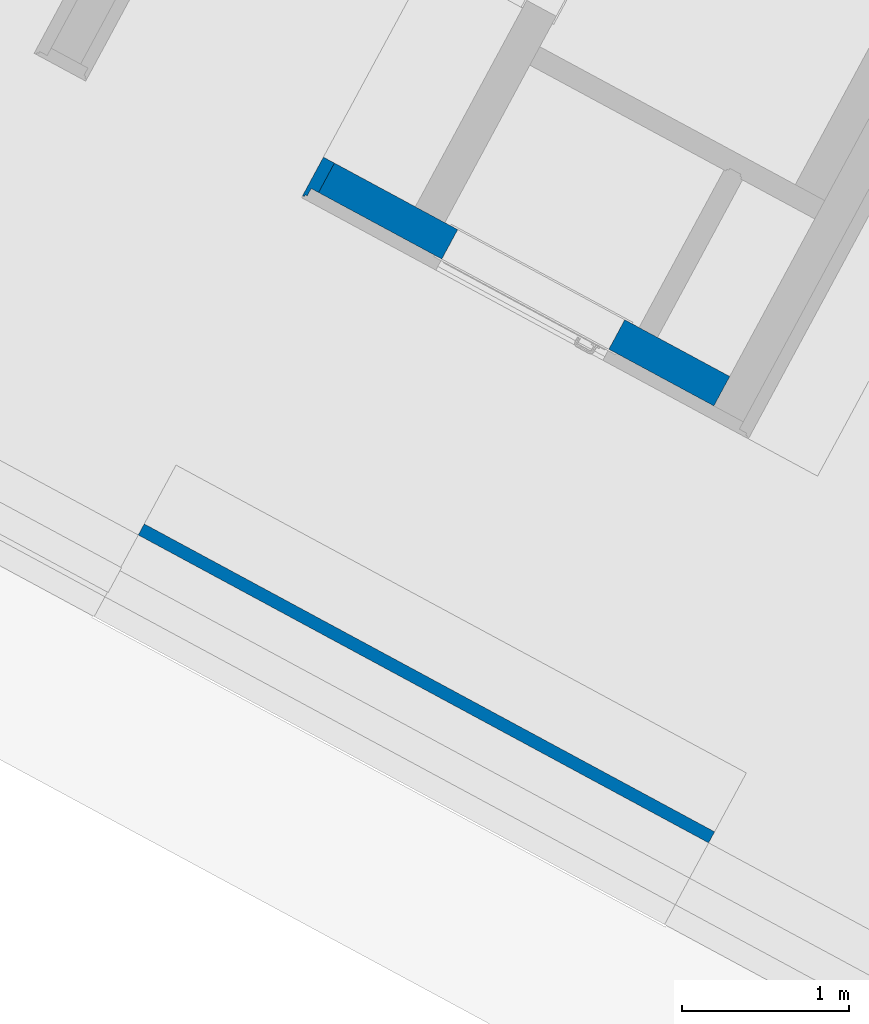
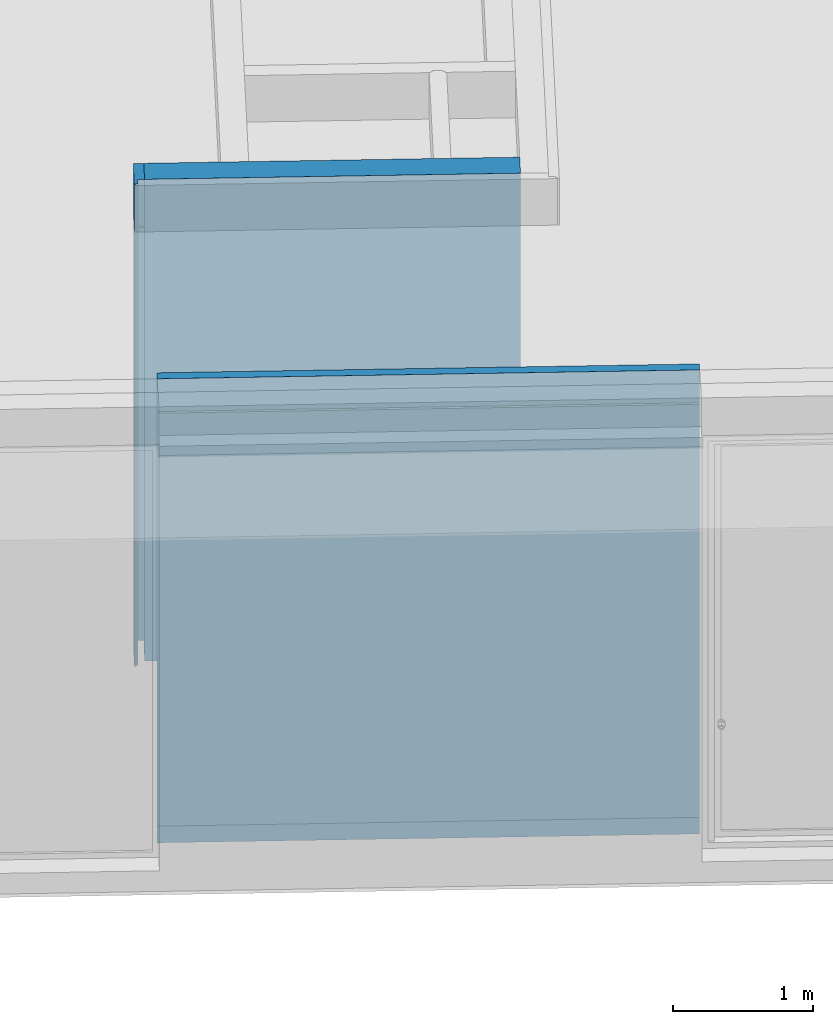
# One storey, part 4 of 52: 3 walls, 1 opening.
"""IFC2X3 building model written with IfcOpenShell, lengths in metres."""

from ifc_helpers import new_model, entity, si_unit, converted_unit, derived_unit, money_unit, direction, frame, origin_with_axes, origin_2d_with_axis, place, context, subcontext, project, spatial, rectangle, extrude, faceted_brep, material, material_list, type_object, element, save


model = new_model("IFC2X3")

# Units and contexts
model_context = context("Model", 3, precision=1e-05, world=origin_with_axes(), true_north=direction((0.0, 1.0)))
body_context = subcontext(model_context, "Body", "Model", "MODEL_VIEW")
ifc_project = project(units=[si_unit("LENGTHUNIT", "METRE"), si_unit("AREAUNIT", "SQUARE_METRE"), si_unit("VOLUMEUNIT", "CUBIC_METRE"), converted_unit("PLANEANGLEUNIT", "DEGREE", entity("IfcPlaneAngleMeasure", 0.0174532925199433), si_unit("PLANEANGLEUNIT", "RADIAN"), dimensions=[0, 0, 0, 0, 0, 0, 0]), money_unit("EUR"), converted_unit("TIMEUNIT", "Year", entity("IfcTimeMeasure", 31556926.0), si_unit("TIMEUNIT", "SECOND"), dimensions=[0, 0, 1, 0, 0, 0, 0]), si_unit("MASSUNIT", "GRAM", prefix="KILO"), si_unit("THERMODYNAMICTEMPERATUREUNIT", "DEGREE_CELSIUS"), si_unit("LUMINOUSINTENSITYUNIT", "LUMEN"), si_unit("ENERGYUNIT", "JOULE", prefix="MEGA"), derived_unit("THERMALCONDUCTANCEUNIT", [(si_unit("POWERUNIT", "WATT"), 1), (si_unit("LENGTHUNIT", "METRE"), -1), (si_unit("THERMODYNAMICTEMPERATUREUNIT", "KELVIN"), -1)]), derived_unit("SPECIFICHEATCAPACITYUNIT", [(si_unit("ENERGYUNIT", "JOULE"), 1), (si_unit("MASSUNIT", "GRAM", prefix="KILO"), -1), (si_unit("THERMODYNAMICTEMPERATUREUNIT", "KELVIN"), -1)]), derived_unit("MASSDENSITYUNIT", [(si_unit("MASSUNIT", "GRAM", prefix="KILO"), 1), (si_unit("VOLUMEUNIT", "CUBIC_METRE"), -1)])], contexts=[model_context])

# Site, building, storey
site_placement = place(None, frame((-3.949935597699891, 1.740105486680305, 0.0), z_axis=(0.0, 0.0, 1.0), x_axis=(0.8799804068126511, -0.475009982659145, 0.0)))
site = spatial("IfcSite", under=ifc_project, at=site_placement, Name="Gelände", CompositionType="ELEMENT")
building_placement = place(site_placement, origin_with_axes())
building = spatial("IfcBuilding", under=site, at=building_placement, Name="Gebäude", CompositionType="ELEMENT")
storey_placement = place(building_placement, origin_with_axes())
storey = spatial("IfcBuildingStorey", under=building, at=storey_placement, Name="Erdgeschoss", CompositionType="ELEMENT", Elevation=0.0)

# Walls
ifc_material_1 = material(Name="_SIWH - Installationswand, raumhoch")
ifc_material_2 = material(Name="_SIWH - Gipskarton")
ifc_material_list_1 = material_list([ifc_material_1, ifc_material_2, ifc_material_2])
wall_type_1 = type_object("IfcWallType", Name="_SIWH - WI | Vorsatz-GK 2-lagig | 7,5cm  75", PredefinedType="NOTDEFINED")
wall_1_placement = place(storey_placement, frame((15.16082818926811, 2.978482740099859, -0.1800000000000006), z_axis=(0.0, 0.0, 1.0), x_axis=(0.0, -1.0, 0.0)))
element("IfcWall", 1, at=wall_1_placement, inside=storey, type_object=wall_type_1, material=ifc_material_list_1, Name="L-Wand009", context=body_context, shape_type="Brep", body=[
    faceted_brep([(0.0, 0.02500000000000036, 3.780000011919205), (0.0, 0.07500000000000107, 3.780000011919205), (0.0, 0.07499999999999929, 0.1800000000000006), (0.0, 0.02500000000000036, 0.1800000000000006), (0.1999999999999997, 0.07500000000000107, 3.780000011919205), (0.1999999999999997, 0.02500000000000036, 3.780000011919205), (0.1999999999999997, 0.07499999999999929, 0.1800000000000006), (0.1999999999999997, 0.02500000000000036, 0.1800000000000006)], [[[0, 1, 2, 3]], [[4, 1, 0, 5]], [[1, 4, 6, 2]], [[3, 2, 6, 7]], [[5, 0, 3, 7]], [[4, 5, 7, 6]]]),
    faceted_brep([(0.1999999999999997, 0.07500000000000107, 3.795000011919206), (0.0, 0.07500000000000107, 3.795000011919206), (0.0, 0.07500000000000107, 4.200000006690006), (0.1999999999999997, 0.07500000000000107, 4.200000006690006), (0.0, 0.02500000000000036, 3.795000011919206), (0.1999999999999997, 0.02500000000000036, 3.795000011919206), (0.0, 0.02500000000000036, 4.200000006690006), (0.1999999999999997, 0.02500000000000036, 4.200000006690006)], [[[0, 1, 2, 3]], [[4, 1, 0, 5]], [[1, 4, 6, 2]], [[7, 3, 2, 6]], [[5, 0, 3, 7]], [[4, 5, 7, 6]]]),
    faceted_brep([(0.2499999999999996, 0.01249999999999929, 0.0), (0.0, 0.01249999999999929, 0.0), (0.0, 0.02500000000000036, 0.0), (0.2499999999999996, 0.02500000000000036, 0.0), (0.2499999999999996, 0.01250000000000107, 4.200000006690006), (0.0, 0.01250000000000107, 4.200000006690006), (0.0, 0.02500000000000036, 4.200000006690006), (0.2499999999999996, 0.02500000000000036, 4.200000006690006)], [[[0, 1, 2, 3]], [[4, 5, 1, 0]], [[2, 1, 5, 6]], [[3, 2, 6, 7]], [[3, 7, 4, 0]], [[7, 6, 5, 4]]]),
    faceted_brep([(0.2624999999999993, 0.0, 0.0), (0.0, 0.0, 0.0), (0.0, 0.01249999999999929, 0.0), (0.2624999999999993, 0.01249999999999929, 0.0), (0.2624999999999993, 0.0, 4.200000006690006), (0.0, 0.0, 4.200000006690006), (0.0, 0.01250000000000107, 4.200000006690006), (0.2624999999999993, 0.01250000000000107, 4.200000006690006)], [[[0, 1, 2, 3]], [[4, 5, 1, 0]], [[2, 1, 5, 6]], [[3, 2, 6, 7]], [[3, 7, 4, 0]], [[7, 6, 5, 4]]]),
])
ifc_material_list_2 = material_list([ifc_material_2, ifc_material_2, ifc_material_1])
wall_2_placement = place(storey_placement, frame((15.25998888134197, 0.4649900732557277, -0.1799999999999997), z_axis=(0.0, 0.0, 1.0), x_axis=(0.9999999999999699, -2.452875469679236e-07, 0.0)))
element("IfcWall", 2, at=wall_2_placement, inside=storey, type_object=wall_type_1, material=ifc_material_list_2, Name="L-Wand014", context=body_context, shape_type="Brep", body=[
    faceted_brep([(3.874872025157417, 0.0625000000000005, 4.080000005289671), (3.874872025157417, 0.07500000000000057, 4.080000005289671), (0.0, 0.07500000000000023, 4.080000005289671), (0.0, 0.06250000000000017, 4.080000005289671), (3.874872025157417, 0.06250000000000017, 0.0), (3.874872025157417, 0.07500000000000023, 0.0), (0.0, 0.07500000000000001, 0.0), (0.0, 0.06249999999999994, 0.0)], [[[0, 1, 2, 3]], [[0, 4, 5, 1]], [[1, 5, 6, 2]], [[3, 2, 6, 7]], [[4, 0, 3, 7]], [[5, 4, 7, 6]]]),
    faceted_brep([(3.874872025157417, 0.05000000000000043, 4.080000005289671), (3.874872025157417, 0.0625000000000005, 4.080000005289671), (0.0, 0.06250000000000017, 4.080000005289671), (0.0, 0.0500000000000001, 4.080000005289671), (3.874872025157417, 0.0500000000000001, 0.0), (3.874872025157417, 0.06250000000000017, 0.0), (0.0, 0.06249999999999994, 0.0), (0.0, 0.04999999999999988, 0.0)], [[[0, 1, 2, 3]], [[0, 4, 5, 1]], [[1, 5, 6, 2]], [[3, 2, 6, 7]], [[4, 0, 3, 7]], [[5, 4, 7, 6]]]),
    faceted_brep([(0.0, 0.04999999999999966, 3.780000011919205), (3.874872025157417, 0.05000000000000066, 3.780000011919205), (3.874872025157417, 0.05000000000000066, 0.1799999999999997), (0.0, 0.04999999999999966, 0.1799999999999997), (3.874872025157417, 0.0, 3.780000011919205), (0.0, 0.0, 3.780000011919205), (3.874872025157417, 0.0, 0.1799999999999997), (0.0, 0.0, 0.1799999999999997)], [[[0, 1, 2, 3]], [[4, 1, 0, 5]], [[1, 4, 6, 2]], [[3, 2, 6, 7]], [[5, 0, 3, 7]], [[4, 5, 7, 6]]]),
    faceted_brep([(3.874872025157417, 0.0, 3.795000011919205), (3.874872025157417, 0.05000000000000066, 3.795000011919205), (3.874872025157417, 0.05000000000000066, 4.080000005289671), (3.874872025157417, 0.0, 4.080000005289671), (0.0, 0.04999999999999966, 3.795000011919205), (0.0, 0.0, 3.795000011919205), (0.0, 0.04999999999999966, 4.080000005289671), (0.0, 0.0, 4.080000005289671)], [[[0, 1, 2, 3]], [[4, 1, 0, 5]], [[1, 4, 6, 2]], [[7, 3, 2, 6]], [[5, 0, 3, 7]], [[4, 5, 7, 6]]]),
])

# Wall, opening
ifc_material_3 = material(Name="_SIWH - Beton, Stahlbeton")
wall_type_2 = type_object("IfcWallType", Name="_SIWH - WI | Stb. 20 | 20cm 200", PredefinedType="NOTDEFINED")
wall_3_placement = place(storey_placement, frame((15.2358281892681, 2.978482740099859, -0.18), z_axis=(0.0, 0.0, 1.0), x_axis=(1.0, 0.0, 0.0)))
wall_3 = element("IfcWall", 3, at=wall_3_placement, inside=storey, type_object=wall_type_2, material=ifc_material_3, Name="I-Wand005", context=body_context, shape_type="Brep", body=[
    faceted_brep([(0.8373287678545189, 0.0, 2.44), (0.8373287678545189, 0.0, 0.18), (0.8373287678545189, 0.0, 0.0), (0.0, 0.0, 0.0), (0.0, 0.0, 4.200000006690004), (2.68567225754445, 0.0, 4.200000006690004), (2.68567225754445, 0.0, 0.0), (1.97232876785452, 0.0, 0.0), (1.972328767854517, 0.0, 0.18), (1.972328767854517, 0.0, 2.44), (0.8373287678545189, -0.199999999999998, 2.44), (0.8373287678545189, -0.199999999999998, 0.18), (0.8373287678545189, -0.199999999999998, 0.0), (0.0, -0.1999999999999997, 0.0), (0.0, -0.1999999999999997, 4.200000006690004), (2.68567225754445, -0.1999999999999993, 4.200000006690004), (2.68567225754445, -0.1999999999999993, 0.0), (1.97232876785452, -0.2000000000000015, 0.0), (1.972328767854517, -0.1999999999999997, 0.18), (1.972328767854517, -0.199999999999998, 2.44)], [[[0, 1, 2, 3, 4, 5, 6, 7, 8, 9]], [[1, 0, 10, 11]], [[1, 11, 12, 2]], [[2, 12, 13, 3]], [[13, 14, 4, 3]], [[15, 5, 4, 14]], [[5, 15, 16, 6]], [[17, 7, 6, 16]], [[18, 8, 7, 17]], [[9, 8, 18, 19]], [[0, 9, 19, 10]], [[19, 18, 17, 16, 15, 14, 13, 12, 11, 10]]]),
])
opening_placement = place(wall_3_placement, frame((1.404828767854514, 0.0, 0.18), z_axis=(0.0, 0.0, 1.0), x_axis=(1.0, 0.0, 0.0)))
element("IfcOpeningElement", 4, at=opening_placement, cuts=wall_3, Name="Tür-017", context=body_context, shape_type="SweptSolid", body=[
    extrude(rectangle(XDim=1.134999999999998, YDim=2.26, at=origin_2d_with_axis()), frame((0.0, 0.2000000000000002, 1.13), z_axis=(0.0, -1.0, 0.0), x_axis=(-1.0, 0.0, 0.0)), (0.0, 0.0, 1.0), 0.6000000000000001),
])

save(model, "model.ifc")
